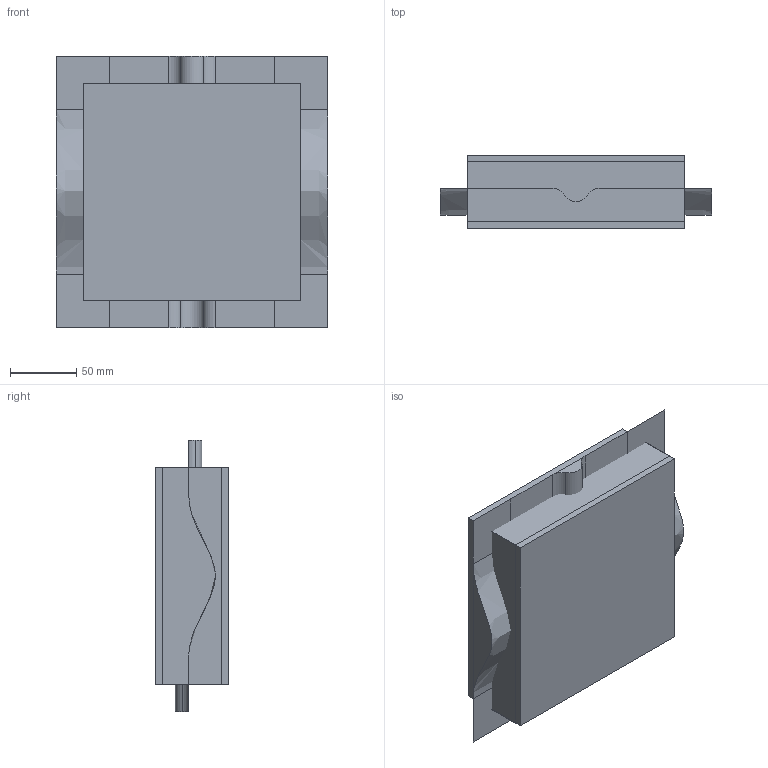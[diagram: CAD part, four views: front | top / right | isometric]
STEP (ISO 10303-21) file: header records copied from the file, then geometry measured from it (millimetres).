
FILE_DESCRIPTION(('CATIA V5 STEP Exchange'),'2;1');
FILE_NAME('C:\_Andres\UNIVERSIDAD\IQS\ASIGNATURAS\DAO\EXF\EXF-16172c\2inicio\Puig_Bataller_Ej02_v24.stp','2017-03-05T15:45:32+00:00',('none'),('none'),'CATIA Version 5-6 Release 2014 SP1 HF18','CATIA V5 STEP AP203','none');
FILE_SCHEMA(('CONFIG_CONTROL_DESIGN'));
Length unit declared in the file: millimetre
Products named in the file (1): Puig_Bataller_Ej02_v24
Bounding box: 204 x 55 x 204 mm (x, y, z)
Surface area: 269388.1 mm2
Topology: 3 solids, 10 shells, 72 faces, 205 edges, 150 vertices
Faces by surface type: bspline 32, plane 32, cylinder 6, extrusion 2
Entity records: 6230 total; most frequent: CARTESIAN_POINT 4913, ORIENTED_EDGE 288, DIRECTION 151, EDGE_CURVE 132, VERTEX_POINT 84, VECTOR 77, LINE 75, ADVANCED_FACE 72
